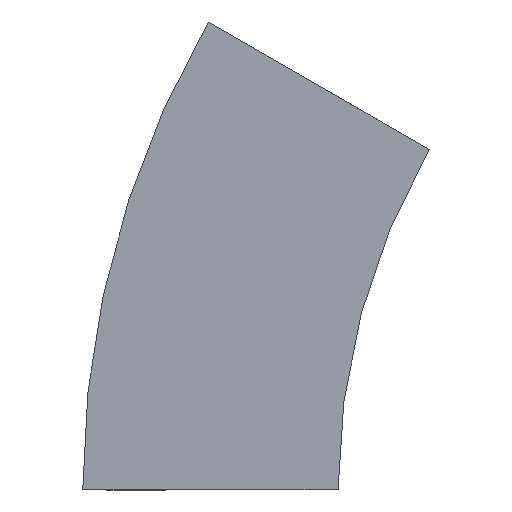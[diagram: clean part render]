
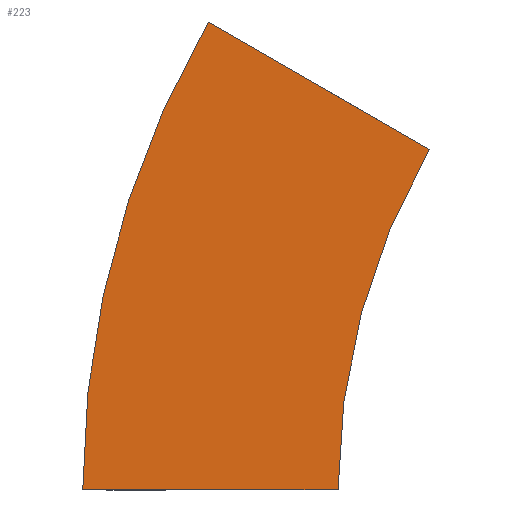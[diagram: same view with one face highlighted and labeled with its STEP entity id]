
A CAD part, left-side view. The second image highlights one B-rep face of the part: STEP entity #223.
In plain terms, the highlighted planar face has unit normal (-1, 0, 0) as drawn and (1, 0, 0) by its records, which use the part's own axes.
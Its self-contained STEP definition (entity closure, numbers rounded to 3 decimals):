
#5 = EDGE_CURVE ( 'NONE', #6, #234, #486, .T. ) ;
#6 = VERTEX_POINT ( 'NONE', #192 ) ;
#8 = DIRECTION ( 'NONE',  ( 0., 0., -1. ) ) ;
#9 = VERTEX_POINT ( 'NONE', #279 ) ;
#44 = CARTESIAN_POINT ( 'NONE',  ( 0., 112.5, 0. ) ) ;
#100 = DIRECTION ( 'NONE',  ( 0., 1., 0. ) ) ;
#125 = DIRECTION ( 'NONE',  ( 1., 0., 0. ) ) ;
#128 = DIRECTION ( 'NONE',  ( 0., 1., 0. ) ) ;
#143 = EDGE_LOOP ( 'NONE', ( #306, #500, #261, #245 ) ) ;
#145 = CIRCLE ( 'NONE', #322, 300. ) ;
#158 = CIRCLE ( 'NONE', #375, 412.5 ) ;
#183 = DIRECTION ( 'NONE',  ( 0., 0.866, 0.5 ) ) ;
#192 = CARTESIAN_POINT ( 'NONE',  ( 0., 0., 0. ) ) ;
#223 = ADVANCED_FACE ( 'NONE', ( #439 ), #398, .T. ) ;
#234 = VERTEX_POINT ( 'NONE', #44 ) ;
#236 = VERTEX_POINT ( 'NONE', #395 ) ;
#245 = ORIENTED_EDGE ( 'NONE', *, *, #5, .T. ) ;
#258 = DIRECTION ( 'NONE',  ( 1., 0., 0. ) ) ;
#261 = ORIENTED_EDGE ( 'NONE', *, *, #466, .F. ) ;
#269 = DIRECTION ( 'NONE',  ( 1., 0., 0. ) ) ;
#273 = VECTOR ( 'NONE', #183, 1000. ) ;
#278 = CARTESIAN_POINT ( 'NONE',  ( 0., 0., 0. ) ) ;
#279 = CARTESIAN_POINT ( 'NONE',  ( 0., 57.235, 206.25 ) ) ;
#306 = ORIENTED_EDGE ( 'NONE', *, *, #520, .T. ) ;
#322 = AXIS2_PLACEMENT_3D ( 'NONE', #346, #125, #100 ) ;
#329 = VECTOR ( 'NONE', #399, 1000. ) ;
#346 = CARTESIAN_POINT ( 'NONE',  ( 0., -300., 0. ) ) ;
#375 = AXIS2_PLACEMENT_3D ( 'NONE', #428, #258, #128 ) ;
#395 = CARTESIAN_POINT ( 'NONE',  ( 0., -40.192, 150. ) ) ;
#398 = PLANE ( 'NONE',  #423 ) ;
#399 = DIRECTION ( 'NONE',  ( 0., 1., 0. ) ) ;
#400 = CARTESIAN_POINT ( 'NONE',  ( 0., 0., 0. ) ) ;
#423 = AXIS2_PLACEMENT_3D ( 'NONE', #278, #269, #8 ) ;
#428 = CARTESIAN_POINT ( 'NONE',  ( 0., -300., 0. ) ) ;
#439 = FACE_OUTER_BOUND ( 'NONE', #143, .T. ) ;
#466 = EDGE_CURVE ( 'NONE', #6, #236, #145, .T. ) ;
#472 = LINE ( 'NONE', #562, #273 ) ;
#486 = LINE ( 'NONE', #400, #329 ) ;
#500 = ORIENTED_EDGE ( 'NONE', *, *, #551, .F. ) ;
#520 = EDGE_CURVE ( 'NONE', #234, #9, #158, .T. ) ;
#551 = EDGE_CURVE ( 'NONE', #236, #9, #472, .T. ) ;
#562 = CARTESIAN_POINT ( 'NONE',  ( 0., -40.192, 150. ) ) ;
